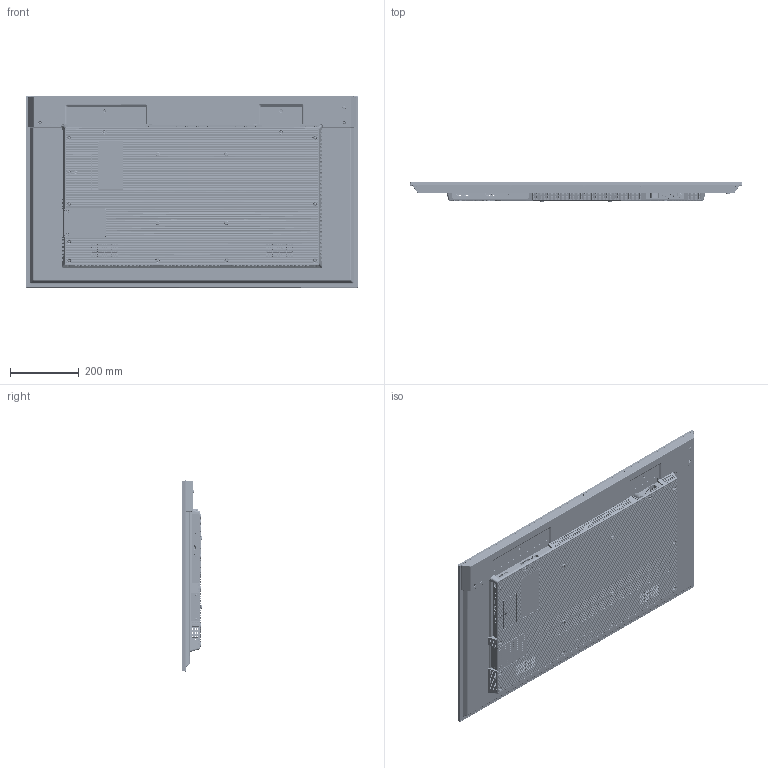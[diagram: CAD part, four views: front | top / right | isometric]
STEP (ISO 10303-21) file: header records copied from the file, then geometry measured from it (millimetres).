
FILE_DESCRIPTION(/* description */ (''),/* implementation_level */ '2;1');
FILE_NAME(/* name */ '00_43U_total_asm_75XL-1207.stp',/* time_stamp */ '2023-12-07T17:40:14+08:00',/* author */ (''),/* organization */ (''),/* preprocessor_version */ 'ST-DEVELOPER v14',/* originating_system */ 'SIEMENS PLM Software NX 8.0',/* authorisation */ '');
FILE_SCHEMA (('AUTOMOTIVE_DESIGN { 1 0 10303 214 3 1 1 1 }'));
Products named in the file (1): 407344CC18A4ahmt
Bounding box: 967.86 x 57.77 x 557.4 mm (x, y, z)
Volume: 10823229.5 mm3; surface area: 3348281.4 mm2
Topology: 5 solids, 15 shells, 25124 faces, 72323 edges, 46540 vertices
Faces by surface type: plane 17846, cylinder 3184, bspline 2288, torus 738, cone 667, extrusion 384, sphere 17
Full cylindrical faces by diameter (mm): 2.7 x2, 3.5 x1, 3.7 x1, 4.2 x1, 4.976 x1, 5.3 x6, 5.5 x1, 6 x2, 7 x2, 7.5 x1, 9.232 x1, 9.366 x1, 9.432 x1, 10 x2, 10.105 x1, 11.5 x2
Entity records: 1183171 total; most frequent: CARTESIAN_POINT 408729, ORIENTED_EDGE 144216, DIRECTION 109931, EDGE_CURVE 72108, VECTOR 50447, LINE 50063, VERTEX_POINT 46467, AXIS2_PLACEMENT_3D 29742
